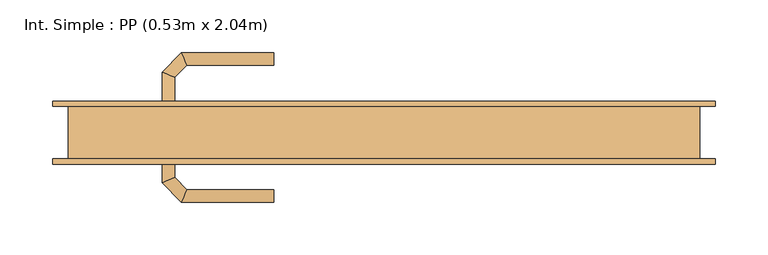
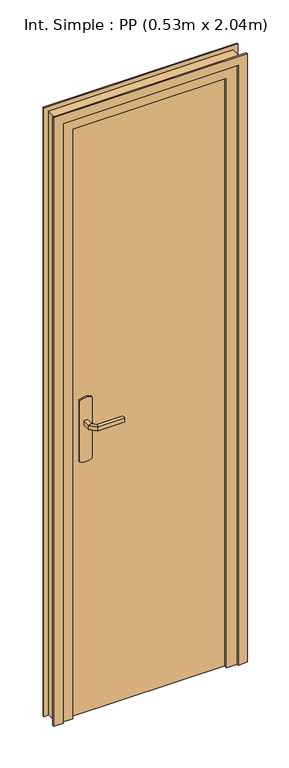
"""IFC4 building model written with IfcOpenShell, lengths in millimetres: door geometry, Int. Simple : PP (0.53m x 2.04m)."""

from ifc_helpers import new_model, si_unit, point, frame, frame_2d, origin, origin_with_axes, place, context, project, spatial, polyline, circle_curve, ellipse_curve, trimmed, segment, composite_curve, outline, extrude, faceted_brep, source, transform, mapped, element, save
from ifc_brep_helpers import plane_surface, cylinder_surface, advanced_brep


def int_simple_pp_0_53m_x_2_04m_380077d8(model_context):
    return source(origin(), model_context, "Body", "SolidModel", [
        extrude(outline(composite_curve([segment(trimmed(circle_curve(frame_2d((904.6410162, -240.0)), 40.0), [point((870.0, -260.0))], [point((870.0, -220.0))], False, "CARTESIAN"), True, "CONTINUOUS"), segment(polyline([(870.0, -220.0), (1080.0, -220.0)]), True, "CONTINUOUS"), segment(trimmed(circle_curve(frame_2d((1045.3589838, -240.0)), 40.0), [point((1080.0, -220.0))], [point((1080.0, -260.0))], False, "CARTESIAN"), True, "CONTINUOUS"), segment(polyline([(1080.0, -260.0), (870.0, -260.0)]), True, "CONTINUOUS")], self_intersect=False)), frame((0.0, 25.0, 0.0), z_axis=(0.0, 1.0, 0.0), x_axis=(0.0, 0.0, 1.0)), (0.0, 0.0, 1.0), 5.0),
        extrude(outline(composite_curve([segment(trimmed(circle_curve(frame_2d((1045.3589838, -240.0)), 40.0), [point((1080.0, -220.0))], [point((1080.0, -260.0))], False, "CARTESIAN"), True, "CONTINUOUS"), segment(polyline([(1080.0, -260.0), (870.0, -260.0)]), True, "CONTINUOUS"), segment(trimmed(circle_curve(frame_2d((904.6410162, -240.0)), 40.0), [point((870.0, -260.0))], [point((870.0, -220.0))], False, "CARTESIAN"), True, "CONTINUOUS"), segment(polyline([(870.0, -220.0), (1080.0, -220.0)]), True, "CONTINUOUS")], self_intersect=False)), frame((0.0, -20.0, 0.0), z_axis=(0.0, 1.0, 0.0), x_axis=(0.0, 0.0, 1.0)), (0.0, 0.0, 1.0), 5.0),
        advanced_brep(
        [(-246.0, 30.0, 1007.0), (-246.0, 30.0, 993.0), (-234.0, 30.0, 993.0), (-234.0, 30.0, 1007.0), (-234.0, 52.680388, 1007.0), (-246.0, 57.6509507, 1007.0), (-234.0, 52.680388, 993.0), (-246.0, 57.6509507, 993.0), (-222.6522273, 64.0281607, 1007.0), (-227.62279, 76.0281607, 1007.0), (-222.6522273, 64.0281607, 993.0), (-227.62279, 76.0281607, 993.0), (-139.9813594, 76.0281607, 1007.0), (-139.9813594, 64.0281607, 1007.0), (-139.9813594, 64.0281607, 993.0), (-139.9813594, 76.0281607, 993.0)],
        [
            (0, 1),
            (1, 2, circle_curve(frame((-240.0, 30.0, 1013.0457722), z_axis=(0.0, -1.0, 0.0), x_axis=(1.0, 0.0, 0.0)), 20.9244589)),
            (2, 3),
            (3, 0, circle_curve(frame((-240.0, 30.0, 986.9542278), z_axis=(0.0, -1.0, 0.0), x_axis=(1.0, 0.0, 0.0)), 20.9244589)),
            (3, 4),
            (4, 5, ellipse_curve(frame((-240.0, 55.1656693, 986.9542278), z_axis=(-0.3826834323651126, -0.9238795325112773, 0.0), x_axis=(0.9238795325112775, -0.38268343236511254, 0.0)), 22.6484711, 20.9244589)),
            (5, 0),
            (2, 6),
            (6, 4),
            (1, 7),
            (7, 6, ellipse_curve(frame((-240.0, 55.1656693, 1013.0457722), z_axis=(-0.3826834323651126, -0.9238795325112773, 0.0), x_axis=(0.9238795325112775, -0.38268343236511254, 0.0)), 22.6484711, 20.9244589)),
            (5, 7),
            (4, 8),
            (8, 9, ellipse_curve(frame((-225.1375086, 70.0281607, 986.9542278), z_axis=(-0.9238795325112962, -0.38268343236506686, 0.0), x_axis=(0.3826834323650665, -0.9238795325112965, 0.0)), 22.6484711, 20.9244589)),
            (9, 5),
            (6, 10),
            (10, 8),
            (7, 11),
            (11, 10, ellipse_curve(frame((-225.1375086, 70.0281607, 1013.0457722), z_axis=(-0.9238795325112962, -0.38268343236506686, 0.0), x_axis=(0.3826834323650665, -0.9238795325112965, 0.0)), 22.6484711, 20.9244589)),
            (9, 11),
            (12, 13, circle_curve(frame((-139.9813594, 70.0281607, 986.9542278), z_axis=(1.0, 0.0, 0.0), x_axis=(0.0, -1.0, 0.0)), 20.9244589)),
            (13, 14),
            (14, 15, circle_curve(frame((-139.9813594, 70.0281607, 1013.0457722), z_axis=(1.0, 0.0, 0.0), x_axis=(0.0, -1.0, 0.0)), 20.9244589)),
            (15, 12),
            (8, 13),
            (12, 9),
            (10, 14),
            (11, 15),
        ],
        [
            plane_surface(frame((-249.2195445, 30.0, 1000.0), z_axis=(0.0, -1.0, 0.0), x_axis=(0.0, 0.0, -1.0))),
            cylinder_surface(frame((-240.0, 30.0, 986.9542278), z_axis=(0.0, -1.0, 0.0), x_axis=(1.0, 0.0, 0.0)), 20.9244589),
            plane_surface(frame((-234.0, 30.0, 1007.0), z_axis=(1.0, 0.0, 0.0), x_axis=(0.0, 1.0, 0.0))),
            cylinder_surface(frame((-240.0, 30.0, 1013.0457722), z_axis=(0.0, -1.0, 0.0), x_axis=(1.0, 0.0, 0.0)), 20.9244589),
            plane_surface(frame((-246.0, 30.0, 993.0), z_axis=(-1.0, 0.0, 0.0), x_axis=(0.0, 1.0, 0.0))),
            cylinder_surface(frame((-240.0, 55.1656693, 986.9542278), z_axis=(-0.7071067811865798, -0.7071067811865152, 0.0), x_axis=(0.7071067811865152, -0.7071067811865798, 0.0)), 20.9244589),
            plane_surface(frame((-234.0, 52.680388, 1007.0), z_axis=(0.7071067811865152, -0.7071067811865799, 0.0), x_axis=(0.7071067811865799, 0.7071067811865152, 0.0))),
            cylinder_surface(frame((-240.0, 55.1656693, 1013.0457722), z_axis=(-0.7071067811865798, -0.7071067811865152, 0.0), x_axis=(0.7071067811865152, -0.7071067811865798, 0.0)), 20.9244589),
            plane_surface(frame((-246.0, 57.6509507, 993.0), z_axis=(-0.7071067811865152, 0.7071067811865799, 0.0), x_axis=(0.7071067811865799, 0.7071067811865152, 0.0))),
            plane_surface(frame((-139.9813594, 70.0281607, 990.7804555), z_axis=(1.0, 0.0, 0.0), x_axis=(0.0, -1.0, 0.0))),
            cylinder_surface(frame((-225.1375086, 70.0281607, 986.9542278), z_axis=(-1.0, 0.0, 0.0), x_axis=(0.0, -1.0, 0.0)), 20.9244589),
            plane_surface(frame((-222.6522273, 64.0281607, 1007.0), z_axis=(0.0, -1.0, 0.0), x_axis=(1.0, 0.0, 0.0))),
            cylinder_surface(frame((-225.1375086, 70.0281607, 1013.0457722), z_axis=(-1.0, 0.0, 0.0), x_axis=(0.0, -1.0, 0.0)), 20.9244589),
            plane_surface(frame((-227.62279, 76.0281607, 993.0), z_axis=(0.0, 1.0, 0.0), x_axis=(1.0, 0.0, 0.0))),
        ],
        [
            (0, [[1, 2, 3, 4]]),
            (1, [[5, 6, 7, -4]]),
            (2, [[8, 9, -5, -3]]),
            (3, [[10, 11, -8, -2]]),
            (4, [[-7, 12, -10, -1]]),
            (5, [[13, 14, 15, -6]]),
            (6, [[16, 17, -13, -9]]),
            (7, [[18, 19, -16, -11]]),
            (8, [[-15, 20, -18, -12]]),
            (9, [[21, 22, 23, 24]]),
            (10, [[25, -21, 26, -14]]),
            (11, [[27, -22, -25, -17]]),
            (12, [[28, -23, -27, -19]]),
            (13, [[-26, -24, -28, -20]]),
        ],
    ),
        advanced_brep(
        [(-234.0, -20.0, 993.0), (-246.0, -20.0, 993.0), (-246.0, -20.0, 1007.0), (-234.0, -20.0, 1007.0), (-234.0, -42.4852045, 1007.0), (-234.0, -42.4852045, 993.0), (-246.0, -47.4557673, 1007.0), (-246.0, -47.4557673, 993.0), (-222.5147186, -53.9704859, 1007.0), (-222.5147186, -53.9704859, 993.0), (-227.4852814, -65.9704859, 1007.0), (-227.4852814, -65.9704859, 993.0), (-139.9542163, -53.9704859, 993.0), (-139.9542163, -53.9704859, 1007.0), (-139.9542163, -65.9704859, 1007.0), (-139.9542163, -65.9704859, 993.0)],
        [
            (0, 1, circle_curve(frame((-240.0, -20.0, 1013.0457722), z_axis=(0.0, 1.0, 0.0), x_axis=(-1.0, 0.0, 0.0)), 20.9244589)),
            (1, 2),
            (2, 3, circle_curve(frame((-240.0, -20.0, 986.9542278), z_axis=(0.0, 1.0, 0.0), x_axis=(-1.0, 0.0, 0.0)), 20.9244589)),
            (3, 0),
            (3, 4),
            (4, 5),
            (5, 0),
            (2, 6),
            (6, 4, ellipse_curve(frame((-240.0, -44.9704859, 986.9542278), z_axis=(-0.3826834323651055, 0.9238795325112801, 0.0), x_axis=(0.9238795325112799, 0.3826834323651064, 0.0)), 22.6484711, 20.9244589)),
            (1, 7),
            (7, 6),
            (5, 7, ellipse_curve(frame((-240.0, -44.9704859, 1013.0457722), z_axis=(-0.3826834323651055, 0.9238795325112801, 0.0), x_axis=(0.9238795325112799, 0.3826834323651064, 0.0)), 22.6484711, 20.9244589)),
            (4, 8),
            (8, 9),
            (9, 5),
            (6, 10),
            (10, 8, ellipse_curve(frame((-225.0, -59.9704859, 986.9542278), z_axis=(-0.9238795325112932, 0.382683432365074, 0.0), x_axis=(0.3826834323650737, 0.9238795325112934, 0.0)), 22.6484711, 20.9244589)),
            (7, 11),
            (11, 10),
            (9, 11, ellipse_curve(frame((-225.0, -59.9704859, 1013.0457722), z_axis=(-0.9238795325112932, 0.382683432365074, 0.0), x_axis=(0.3826834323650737, 0.9238795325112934, 0.0)), 22.6484711, 20.9244589)),
            (12, 13),
            (13, 14, circle_curve(frame((-139.9542163, -59.9704859, 986.9542278), z_axis=(1.0, 0.0, 0.0), x_axis=(0.0, -1.0, 0.0)), 20.9244589)),
            (14, 15),
            (15, 12, circle_curve(frame((-139.9542163, -59.9704859, 1013.0457722), z_axis=(1.0, 0.0, 0.0), x_axis=(0.0, -1.0, 0.0)), 20.9244589)),
            (8, 13),
            (12, 9),
            (10, 14),
            (11, 15),
        ],
        [
            plane_surface(frame((-249.2195445, -20.0, 1000.0), z_axis=(0.0, 1.0, 0.0), x_axis=(0.0, 0.0, 1.0))),
            plane_surface(frame((-234.0, -20.0, 993.0), z_axis=(1.0, 0.0, 0.0), x_axis=(0.0, -1.0, 0.0))),
            cylinder_surface(frame((-240.0, -20.0, 986.9542278), z_axis=(0.0, 1.0, 0.0), x_axis=(-1.0, 0.0, 0.0)), 20.9244589),
            plane_surface(frame((-246.0, -20.0, 1007.0), z_axis=(-1.0, 0.0, 0.0), x_axis=(0.0, -1.0, 0.0))),
            cylinder_surface(frame((-240.0, -20.0, 1013.0457722), z_axis=(0.0, 1.0, 0.0), x_axis=(-1.0, 0.0, 0.0)), 20.9244589),
            plane_surface(frame((-234.0, -42.4852045, 993.0), z_axis=(0.7071067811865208, 0.7071067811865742, 0.0), x_axis=(0.7071067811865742, -0.7071067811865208, 0.0))),
            cylinder_surface(frame((-240.0, -44.9704859, 986.9542278), z_axis=(-0.7071067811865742, 0.7071067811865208, 0.0), x_axis=(-0.7071067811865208, -0.7071067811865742, 0.0)), 20.9244589),
            plane_surface(frame((-246.0, -47.4557673, 1007.0), z_axis=(-0.7071067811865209, -0.7071067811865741, 0.0), x_axis=(0.7071067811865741, -0.7071067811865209, 0.0))),
            cylinder_surface(frame((-240.0, -44.9704859, 1013.0457722), z_axis=(-0.7071067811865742, 0.7071067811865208, 0.0), x_axis=(-0.7071067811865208, -0.7071067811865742, 0.0)), 20.9244589),
            plane_surface(frame((-139.9542163, -59.9704859, 990.7804555), z_axis=(1.0, 0.0, 0.0), x_axis=(0.0, -1.0, 0.0))),
            plane_surface(frame((-222.5147186, -53.9704859, 993.0), z_axis=(0.0, 1.0, 0.0), x_axis=(1.0, 0.0, 0.0))),
            cylinder_surface(frame((-225.0, -59.9704859, 986.9542278), z_axis=(-1.0, 0.0, 0.0), x_axis=(0.0, -1.0, 0.0)), 20.9244589),
            plane_surface(frame((-227.4852814, -65.9704859, 1007.0), z_axis=(0.0, -1.0, 0.0), x_axis=(1.0, 0.0, 0.0))),
            cylinder_surface(frame((-225.0, -59.9704859, 1013.0457722), z_axis=(-1.0, 0.0, 0.0), x_axis=(0.0, -1.0, 0.0)), 20.9244589),
        ],
        [
            (0, [[1, 2, 3, 4]]),
            (1, [[5, 6, 7, -4]]),
            (2, [[8, 9, -5, -3]]),
            (3, [[10, 11, -8, -2]]),
            (4, [[-7, 12, -10, -1]]),
            (5, [[13, 14, 15, -6]]),
            (6, [[16, 17, -13, -9]]),
            (7, [[18, 19, -16, -11]]),
            (8, [[-15, 20, -18, -12]]),
            (9, [[21, 22, 23, 24]]),
            (10, [[25, -21, 26, -14]]),
            (11, [[27, -22, -25, -17]]),
            (12, [[28, -23, -27, -19]]),
            (13, [[-26, -24, -28, -20]]),
        ],
    ),
        extrude(outline(polyline([(-300.0, -15.0), (-300.0, 25.0), (230.0, 25.0), (230.0, -15.0), (-300.0, -15.0)])), origin_with_axes(), (0.0, 0.0, 1.0), 2040.0),
        faceted_brep([(-335.0, 25.0, 0.0), (-300.0, 25.0, 0.0), (-300.0, -15.0, 0.0), (-285.0, -15.0, 0.0), (-285.0, -25.0, 0.0), (-335.0, -25.0, 0.0), (-335.0, -25.0, 2075.0), (-335.0, 25.0, 2075.0), (-285.0, -25.0, 2025.0), (215.0, -25.0, 2025.0), (215.0, -25.0, 0.0), (265.0, -25.0, 0.0), (265.0, -25.0, 2075.0), (-285.0, -15.0, 2025.0), (-300.0, -15.0, 2040.0), (230.0, -15.0, 2040.0), (230.0, -15.0, 0.0), (215.0, -15.0, 0.0), (215.0, -15.0, 2025.0), (-300.0, 25.0, 2040.0), (265.0, 25.0, 2075.0), (265.0, 25.0, 0.0), (230.0, 25.0, 0.0), (230.0, 25.0, 2040.0)], [[[0, 1, 2, 3, 4, 5]], [[5, 6, 7, 0]], [[4, 8, 9, 10, 11, 12, 6, 5]], [[3, 13, 8, 4]], [[2, 14, 15, 16, 17, 18, 13, 3]], [[1, 19, 14, 2]], [[0, 7, 20, 21, 22, 23, 19, 1]], [[12, 11, 21, 20]], [[21, 11, 10, 17, 16, 22]], [[18, 17, 10, 9]], [[23, 22, 16, 15]], [[6, 12, 20, 7]], [[13, 18, 9, 8]], [[19, 23, 15, 14]]]),
        extrude(outline(polyline([(0.0, -320.0), (2060.0, -320.0), (2060.0, 250.0), (0.0, 250.0), (0.0, 280.0), (2090.0, 280.0), (2090.0, -350.0), (0.0, -350.0), (0.0, -320.0)])), frame((0.0, 25.0, 0.0), z_axis=(0.0, 1.0, 0.0), x_axis=(0.0, 0.0, 1.0)), (0.0, 0.0, 1.0), 5.0),
        extrude(outline(polyline([(0.0, -320.0), (2060.0, -320.0), (2060.0, 250.0), (0.0, 250.0), (0.0, 280.0), (2090.0, 280.0), (2090.0, -350.0), (0.0, -350.0), (0.0, -320.0)])), frame((0.0, -30.0, 0.0), z_axis=(0.0, 1.0, 0.0), x_axis=(0.0, 0.0, 1.0)), (0.0, 0.0, 1.0), 5.0),
    ])


if __name__ == "__main__":
    model = new_model("IFC4")
    model_context = context("Model", 3, world=origin())
    ifc_project = project(units=[si_unit("LENGTHUNIT", "METRE", prefix="MILLI")], contexts=[model_context])
    site = spatial("IfcSite", under=ifc_project)
    building = spatial("IfcBuilding", under=site)
    placement = place(None, origin())
    int_simple_pp_0_53m_x_2_04m_shape = int_simple_pp_0_53m_x_2_04m_380077d8(model_context)
    element("IfcDoor", 1, ObjectType="Int. Simple : PP (0.53m x 2.04m)", at=placement, inside=building, context=model_context, shape_type="MappedRepresentation", body=[
        mapped(int_simple_pp_0_53m_x_2_04m_shape, transform((0.0, 0.0, 0.0), x_axis=(1.0, 0.0, 0.0), y_axis=(0.0, 1.0, 0.0), z_axis=(0.0, 0.0, 1.0))),
    ])
    save(model, "model.ifc")
